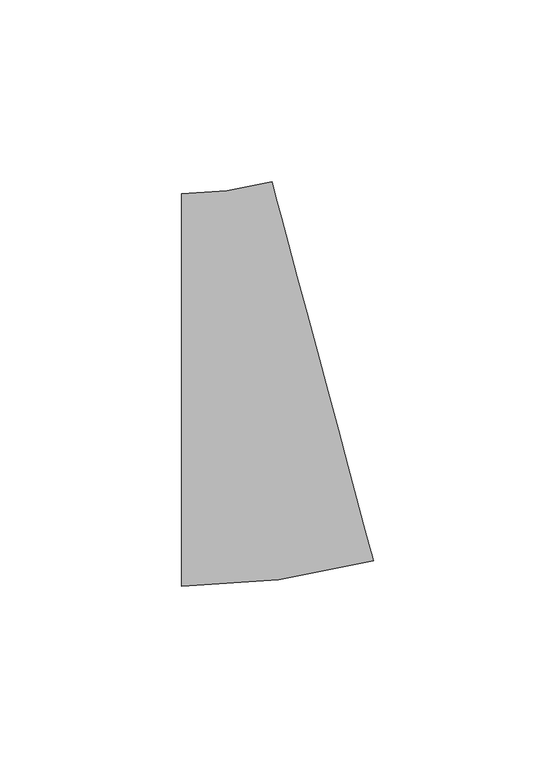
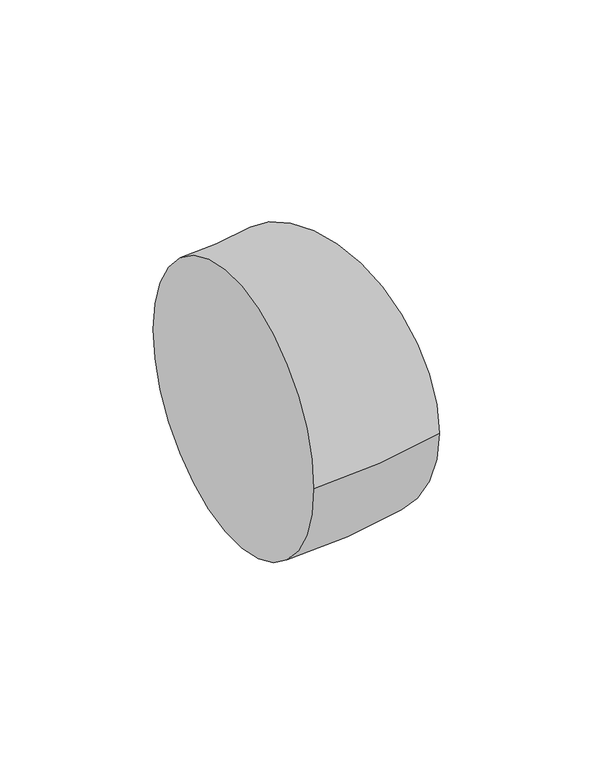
"""IFC4 building model written with IfcOpenShell, lengths in millimetres: pipe fitting geometry, ADSK_ДетальСтальнаяСварная_Отвод_ГОСТ17375-2001 : Исполнение 2."""

from ifc_helpers import new_model, si_unit, point, frame, origin, place, context, project, spatial, circle_curve, ellipse_curve, trimmed, source, transform, mapped, element, save
from ifc_brep_helpers import plane_surface, revolved_surface, advanced_brep


def pipe_fitting_c881d586(model_context):
    return source(origin(), model_context, "Body", "AdvancedBrep", [
        advanced_brep(
        [(-19.7478746, -54.0, 0.0), (-19.7478746, 54.0, 0.0), (33.0512106, -47.0488686, 0.0), (5.0987537, 57.2711207, 0.0)],
        [
            (0, 1, circle_curve(frame((-19.7478746, 0.0, 0.0), z_axis=(-1.0, 0.0, 0.0), x_axis=(0.0, 1.0, 0.0)), 54.0)),
            (1, 0, circle_curve(frame((-19.7478746, 0.0, 0.0), z_axis=(-1.0, 0.0, 0.0), x_axis=(0.0, 1.0, 0.0)), 54.0)),
            (2, 3, circle_curve(frame((19.0749821, 5.1111261, 0.0), z_axis=(0.9659258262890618, 0.25881904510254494, 0.0), x_axis=(-0.25881904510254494, 0.9659258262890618, 0.0)), 54.0)),
            (3, 2, circle_curve(frame((19.0749821, 5.1111261, 0.0), z_axis=(0.9659258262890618, 0.25881904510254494, 0.0), x_axis=(-0.25881904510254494, 0.9659258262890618, 0.0)), 54.0)),
            (3, 1, circle_curve(frame((-19.7478746, 150.0, 0.0), z_axis=(0.0, 0.0, -1.0), x_axis=(0.0, -1.0, 0.0)), 96.0)),
            (0, 2, circle_curve(frame((-19.7478746, 150.0, 0.0), z_axis=(0.0, 0.0, 1.0), x_axis=(0.0, -1.0, 0.0)), 204.0)),
        ],
        [
            plane_surface(frame((-19.7478746, 0.0, 0.0), z_axis=(-1.0, 0.0, 0.0), x_axis=(0.0, 0.0, 1.0))),
            plane_surface(frame((19.0749821, 5.1111261, 0.0), z_axis=(0.9659258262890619, 0.25881904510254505, 0.0), x_axis=(0.0, 0.0, 1.0))),
            revolved_surface(trimmed(ellipse_curve(frame((-19.7478746, 0.0, 0.0), z_axis=(-1.0, 0.0, 0.0), x_axis=(0.0, 1.0, 0.0)), 54.0, 54.0), [point((-19.7478746, -54.0, 0.0))], [point((-19.7478746, 54.0, 0.0))], True, "CARTESIAN"), (-19.7478746, 150.0, 0.0), (0.0, 0.0, 1.0)),
            revolved_surface(trimmed(ellipse_curve(frame((-19.7478746, 0.0, 0.0), z_axis=(-1.0, 0.0, 0.0), x_axis=(0.0, 1.0, 0.0)), 54.0, 54.0), [point((-19.7478746, 54.0, 0.0))], [point((-19.7478746, -54.0, 0.0))], True, "CARTESIAN"), (-19.7478746, 150.0, 0.0), (0.0, 0.0, 1.0)),
        ],
        [
            (0, [[1, 2]]),
            (1, [[3, 4]]),
            (2, [[5, -1, 6, -4]]),
            (3, [[-6, -2, -5, -3]]),
        ],
    ),
    ])


if __name__ == "__main__":
    model = new_model("IFC4")
    model_context = context("Model", 3, world=origin())
    ifc_project = project(units=[si_unit("LENGTHUNIT", "METRE", prefix="MILLI")], contexts=[model_context])
    site = spatial("IfcSite", under=ifc_project)
    building = spatial("IfcBuilding", under=site)
    placement = place(None, origin())
    pipe_fitting_shape = pipe_fitting_c881d586(model_context)
    element("IfcPipeFitting", 1, ObjectType="ADSK_ДетальСтальнаяСварная_Отвод_ГОСТ17375-2001 : Исполнение 2", at=placement, inside=building, context=model_context, shape_type="MappedRepresentation", body=[
        mapped(pipe_fitting_shape, transform((0.0, 0.0, 0.0), x_axis=(1.0, 0.0, 0.0), y_axis=(0.0, 1.0, 0.0), z_axis=(0.0, 0.0, 1.0))),
    ])
    save(model, "model.ifc")
